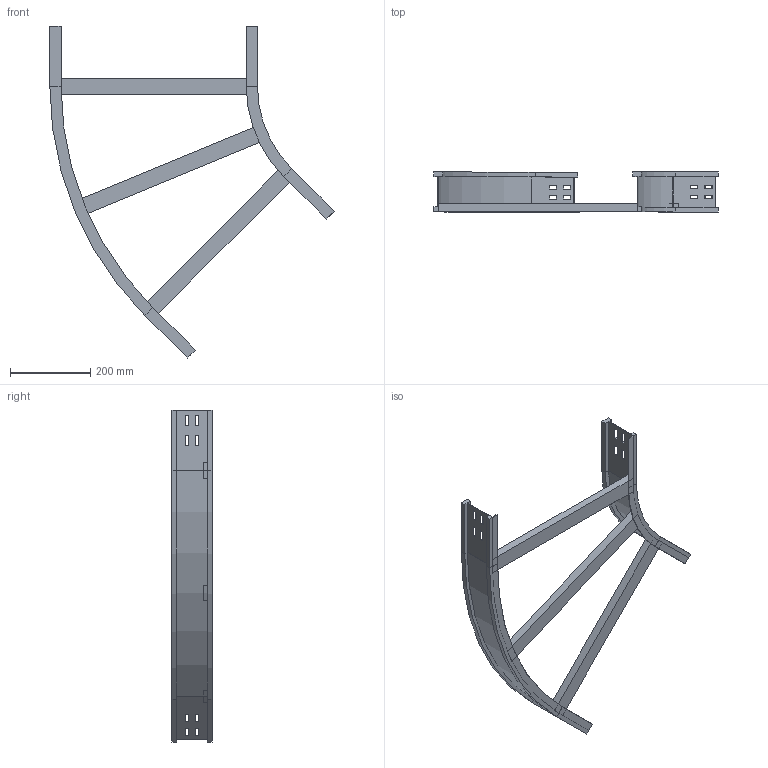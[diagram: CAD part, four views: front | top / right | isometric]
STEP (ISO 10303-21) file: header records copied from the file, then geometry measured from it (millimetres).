
FILE_DESCRIPTION (( 'STEP AP214' ), '1' );
FILE_NAME ('11S3D500.step', '2025-02-21T16:03:13', ( '' ), ( '' ), 'SwSTEP 2.0', 'SolidWorks 2023', '' );
FILE_SCHEMA (( 'AUTOMOTIVE_DESIGN' ));
Length unit declared in the file: millimetre
Products named in the file (4): LONGH.ESTERNO 45°_H100_R300+500; LONGH.INTERNO 45°_H100_R300; TRAVERSINO_500; 11S3D500
Assembly tree (5 placements, depth 2):
  11S3D500
    LONGH.INTERNO 45°_H100_R300
    LONGH.ESTERNO 45°_H100_R300+500
    TRAVERSINO_500  x3
Bounding box: 709.3 x 100 x 828.12 mm (x, y, z)
Volume: 1978563.1 mm3; surface area: 616613.6 mm2
Topology: 5 solids, 5 shells, 158 faces, 396 edges, 248 vertices
Faces by surface type: plane 146, cylinder 12
Entity records: 4477 total; most frequent: CARTESIAN_POINT 758, ORIENTED_EDGE 744, DIRECTION 704, EDGE_CURVE 372, LINE 348, VECTOR 348, VERTEX_POINT 232, AXIS2_PLACEMENT_3D 178
